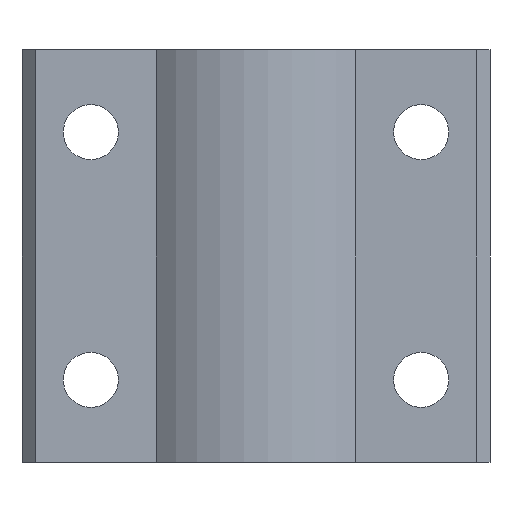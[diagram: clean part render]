
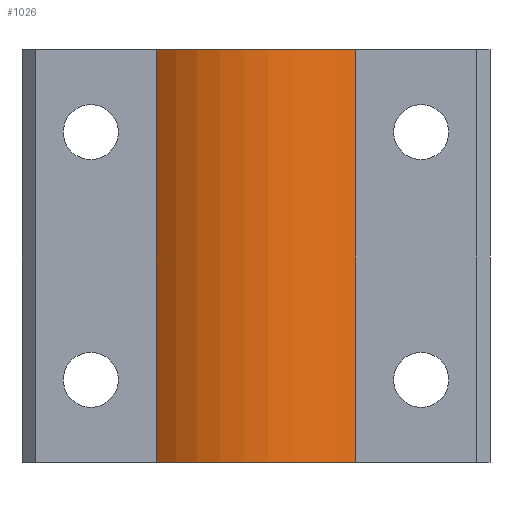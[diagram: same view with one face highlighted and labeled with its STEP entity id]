
A CAD part, front view. The second image highlights one B-rep face of the part: STEP entity #1026.
In plain terms, the highlighted cylindrical face has radius 11 mm (diameter 22 mm), a partial arc.
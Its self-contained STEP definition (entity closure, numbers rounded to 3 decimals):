
#914=CARTESIAN_POINT('',(-4.464,-10.077,27.0));
#915=VERTEX_POINT('',#914);
#922=CARTESIAN_POINT('',(10.025,-10.077,27.0));
#923=VERTEX_POINT('',#922);
#924=CARTESIAN_POINT('',(2.781,-1.799,27.0));
#925=DIRECTION('',(0.0,0.0,-1.));
#926=DIRECTION('',(-0.659,-0.753,0.0));
#927=AXIS2_PLACEMENT_3D('',#924,#925,#926);
#928=CIRCLE('',#927,11.0);
#929=EDGE_CURVE('',#923,#915,#928,.T.);
#995=CARTESIAN_POINT('',(2.781,-1.799,12.));
#996=DIRECTION('',(0.0,0.0,1.0));
#997=DIRECTION('',(-0.659,-0.753,0.0));
#998=AXIS2_PLACEMENT_3D('',#995,#996,#997);
#999=CYLINDRICAL_SURFACE('',#998,11.);
#1000=ORIENTED_EDGE('',*,*,#929,.T.);
#1001=CARTESIAN_POINT('',(-4.464,-10.077,-3.));
#1002=VERTEX_POINT('',#1001);
#1003=CARTESIAN_POINT('',(-4.464,-10.077,-3.));
#1004=DIRECTION('',(0.0,0.0,1.0));
#1005=VECTOR('',#1004,30.0);
#1006=LINE('',#1003,#1005);
#1007=EDGE_CURVE('',#1002,#915,#1006,.T.);
#1008=ORIENTED_EDGE('',*,*,#1007,.F.);
#1009=CARTESIAN_POINT('',(10.025,-10.077,-3.));
#1010=VERTEX_POINT('',#1009);
#1011=CARTESIAN_POINT('',(2.781,-1.799,-3.));
#1012=DIRECTION('',(0.0,0.0,1.));
#1013=DIRECTION('',(-0.659,-0.753,0.0));
#1014=AXIS2_PLACEMENT_3D('',#1011,#1012,#1013);
#1015=CIRCLE('',#1014,11.0);
#1016=EDGE_CURVE('',#1002,#1010,#1015,.T.);
#1017=ORIENTED_EDGE('',*,*,#1016,.T.);
#1018=CARTESIAN_POINT('',(10.025,-10.077,27.0));
#1019=DIRECTION('',(0.0,0.0,-1.0));
#1020=VECTOR('',#1019,30.0);
#1021=LINE('',#1018,#1020);
#1022=EDGE_CURVE('',#923,#1010,#1021,.T.);
#1023=ORIENTED_EDGE('',*,*,#1022,.F.);
#1024=EDGE_LOOP('',(#1000,#1008,#1017,#1023));
#1025=FACE_OUTER_BOUND('',#1024,.T.);
#1026=ADVANCED_FACE('',(#1025),#999,.T.);
